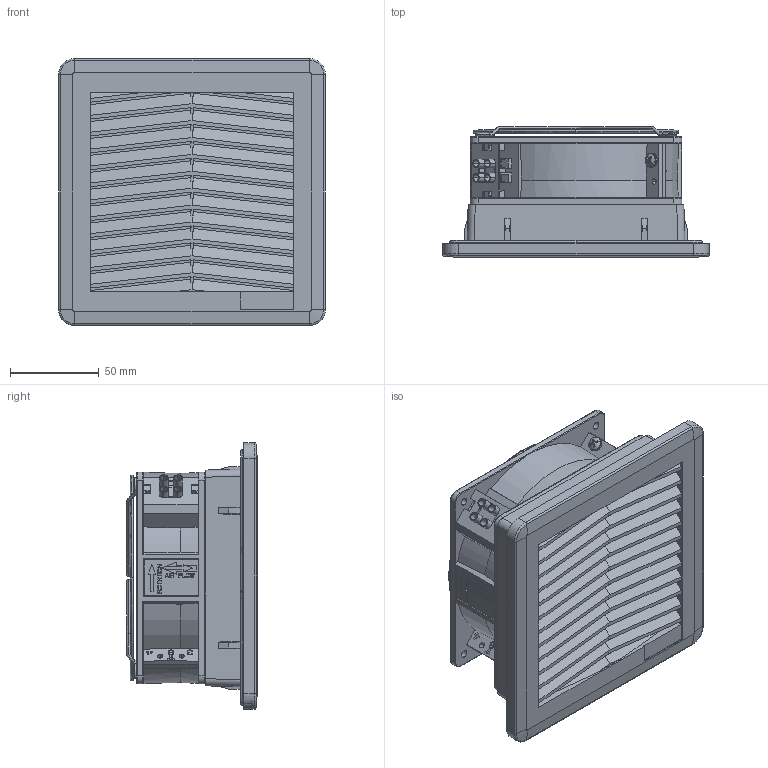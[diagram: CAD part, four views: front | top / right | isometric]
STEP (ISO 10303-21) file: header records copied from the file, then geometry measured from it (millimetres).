
FILE_DESCRIPTION((''),'2;1');
FILE_NAME('SCE-N12FA44LG_ASM','2017-05-12T',('dougp'),('SAGINAW CONTROL & ENGINEERING'),'PRO/ENGINEER BY PARAMETRIC TECHNOLOGY CORPORATION, 2012070','PRO/ENGINEER BY PARAMETRIC TECHNOLOGY CORPORATION, 2012070','');
FILE_SCHEMA(('AUTOMOTIVE_DESIGN { 1 0 10303 214 1 1 1 1 }'));
Products named in the file (39): _1_A-14; _1_A-19; _1_A-31; _1_A-41; _1_A-53; _1_A-65; _1_A-77; _1_A-89; _1_A-99; _1_A-109; _1_A-119; _1_A-129; _1_A-141; _1_A-163; _1_A-187; _1_A-211; _1_A-223; _1_A-235; _1_A-245; _1_A-257; BREP_16; BREP_15; BREP_14; BREP_13; BREP_12; BREP_11; BREP_10; BREP_9; BREP_8; BREP_7; BREP_6; BREP_5; BREP_4; BREP_3; BREP_2; BREP_1; 1_A_ASM_ASM; ASSEMBLY_1_ASM; SCE-N12FA44LG_ASM
Assembly tree (38 placements, depth 4):
  SCE-N12FA44LG_ASM
    ASSEMBLY_1_ASM
      1_A_ASM_ASM
        _1_A-14
        _1_A-19
        _1_A-31
        _1_A-41
        _1_A-53
        _1_A-65
        _1_A-77
        _1_A-89
        _1_A-99
        _1_A-109
        _1_A-119
        _1_A-129
        _1_A-141
        _1_A-163
        _1_A-187
        _1_A-211
        _1_A-223
        _1_A-235
        _1_A-245
        _1_A-257
        BREP_16
        BREP_15
        BREP_14
        BREP_13
        BREP_12
        BREP_11
        BREP_10
        BREP_9
        BREP_8
        BREP_7
        BREP_6
        BREP_5
        BREP_4
        BREP_3
        BREP_2
        BREP_1
Bounding box: 150 x 73.2 x 150 mm (x, y, z)
Volume: 55256.8 mm3; surface area: 221937.1 mm2
Topology: 14 solids, 43 shells, 2233 faces, 6560 edges, 4265 vertices
Faces by surface type: plane 1315, cylinder 513, torus 154, cone 102, bspline 92, sphere 50, extrusion 7
Entity records: 132044 total; most frequent: CARTESIAN_POINT 52575, ORIENTED_EDGE 12691, DIRECTION 11170, PRESENTATION_STYLE_ASSIGNMENT 6542, STYLED_ITEM 6542, CURVE_STYLE 6506, EDGE_CURVE 6506, VERTEX_POINT 4267
